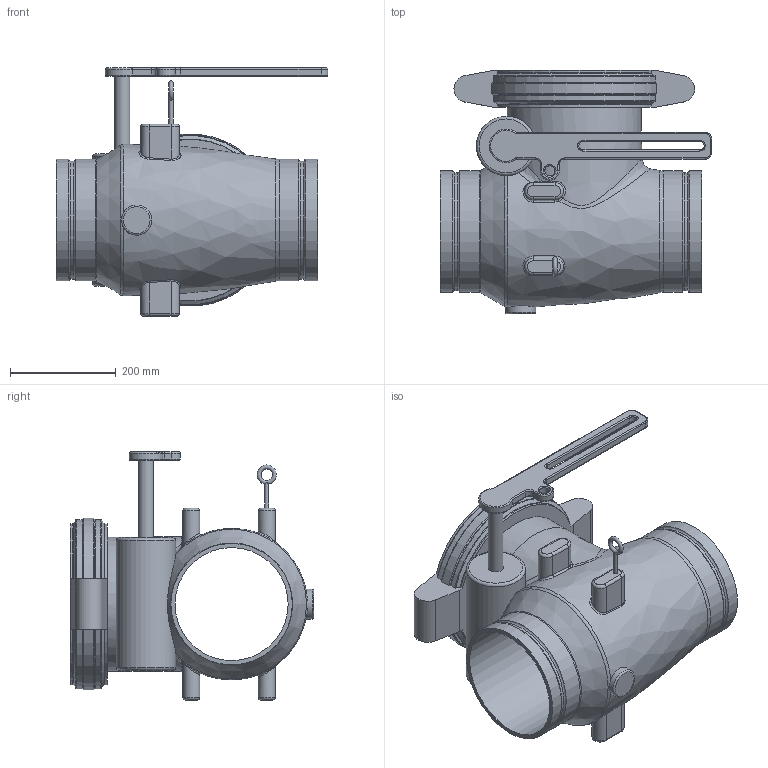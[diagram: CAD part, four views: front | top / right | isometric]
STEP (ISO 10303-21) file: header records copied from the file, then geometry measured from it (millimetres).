
FILE_DESCRIPTION(/* description */ ('VIC AWWA VALVE CHECK SPRING AND LEVER SERIES 317 (DRG)','CAx-IF Rec.Pracs.---Representation and Presentation of Product Manufacturing Information (PMI)---4.0---2014-10-13'),/* implementation_level */ '2;1');
FILE_NAME(/* name */ 'C:\Users\Vjadhav\Desktop\CAD for Inventor\1\317\STEP\Victaulic_AWWA_Valve Check Spring and Lever_Series 317 (DRG)\Victaulic_AWWA_Valve Check Spring and Lever_Series 317 (DRG)_8 (200).stp',/* time_stamp */ '2021-10-01T17:34:49+05:00',/* author */ ('jbrannon'),/* organization */ ('Victaulic'),/* preprocessor_version */ 'ST-DEVELOPER v17.2',/* originating_system */ 'Autodesk Inventor 2019',/* authorisation */ '');
FILE_SCHEMA (('AP242_MANAGED_MODEL_BASED_3D_ENGINEERING_MIM_LF { 1 0 10303 442 1 1 4 }'));
Length unit declared in the file: inch
Products named in the file (1): 317-08.0
Bounding box: 514.35 x 460.76 x 469.65 mm (x, y, z)
Volume: 22533228.3 mm3; surface area: 1170897.8 mm2
Topology: 1 solids, 1 shells, 188 faces, 486 edges, 305 vertices
Faces by surface type: cylinder 65, torus 50, plane 37, bspline 26, cone 10
Full cylindrical faces by diameter (mm): 7.62 x1, 19.177 x1, 28.575 x1, 57.15 x1, 112.268 x1, 214.122 x1, 223.037 x2, 229.87 x4, 254 x1
Entity records: 7795 total; most frequent: CARTESIAN_POINT 2999, ORIENTED_EDGE 972, DIRECTION 966, EDGE_CURVE 486, AXIS2_PLACEMENT_3D 414, VERTEX_POINT 305, CIRCLE 238, EDGE_LOOP 201
